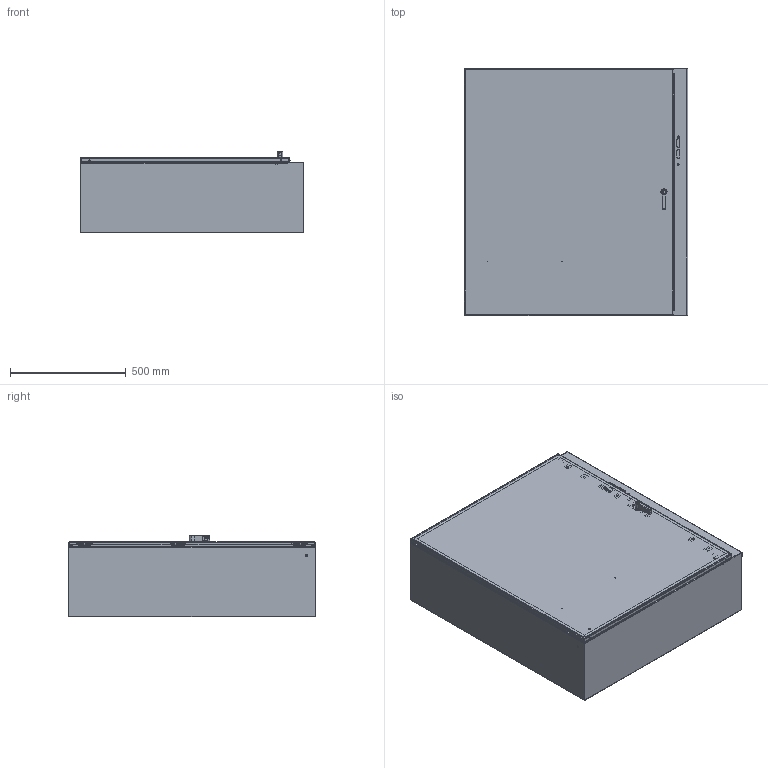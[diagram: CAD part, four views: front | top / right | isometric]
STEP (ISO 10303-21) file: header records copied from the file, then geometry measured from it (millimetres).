
FILE_DESCRIPTION (( 'STEP AP203' ), '1' );
FILE_NAME ('cdsc423812.STEP', '2020-02-14T16:13:12', ( '' ), ( '' ), 'SwSTEP 2.0', 'SolidWorks 2016', '' );
FILE_SCHEMA (( 'CONFIG_CONTROL_DESIGN' ));
Length unit declared in the file: inch
Products named in the file (43): 89076193; 23271001_After Weld; cdsc423812; 64205001; 99411834; 87938436; 89173485; 64210001; 87555298; 89076399; 89123201; 64424005; 87543027; 79410_LOCKED; 87541995; 89131630; 64208001; 22101011; 87938424_fip; 64103001; 99401225; 87415913_Locked; 87784879_CWHPTO; 99411839_99411839; 87938381; 64424006; 87931362_87931362; 64207001; 99411612; 64212005; 87932266; 87938402_assy; 87756331; 64157001_Locked; 89123196; 89175157_89175157; 89173484; 89083098; 64206004; 87540678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
Assembly tree (69 placements, depth 5):
  cdsc423812
    89083098
      87756331
      64424005
      64424006
      23271001_After Weld  x8
      99401225_Config-Drawing
    87543027  x3
    89076399  x3
      89076193
      89131630
    87938402_assy
      87938424_fip
        87938381
        99401225  x3
        51123001_Post weld
        87931362_87931362  x2
      87415913_Locked
        64157001_Locked
          87540678
          64210001
          64208001
          64205001  x2
          87541995
          87932266
        64103001  x5
        64206004  x2
        64207001  x2
        99411834  x3
        64212005
        64144001
        99411612  x2
      87555298
      87938436
      22101011  x2
      99411839_99411839  x2
      89173484
      89173485
      89175157_89175157  x2
    87784879_CWHPTO
      79410_LOCKED
    89123201
      89123196
Bounding box: 963.93 x 1066.8 x 353.36 mm (x, y, z)
Volume: 6768017.2 mm3; surface area: 7227463.6 mm2
Topology: 66 solids, 66 shells, 4418 faces, 11522 edges, 7292 vertices
Faces by surface type: plane 2030, cylinder 1156, bspline 819, torus 227, cone 125, sphere 61
Entity records: 97641 total; most frequent: CARTESIAN_POINT 33789, ORIENTED_EDGE 12798, DIRECTION 11244, EDGE_CURVE 6399, VERTEX_POINT 4066, AXIS2_PLACEMENT_3D 3774, LINE 3696, VECTOR 3696
